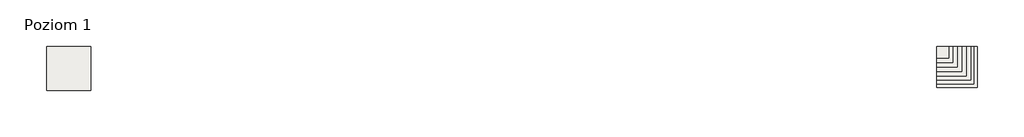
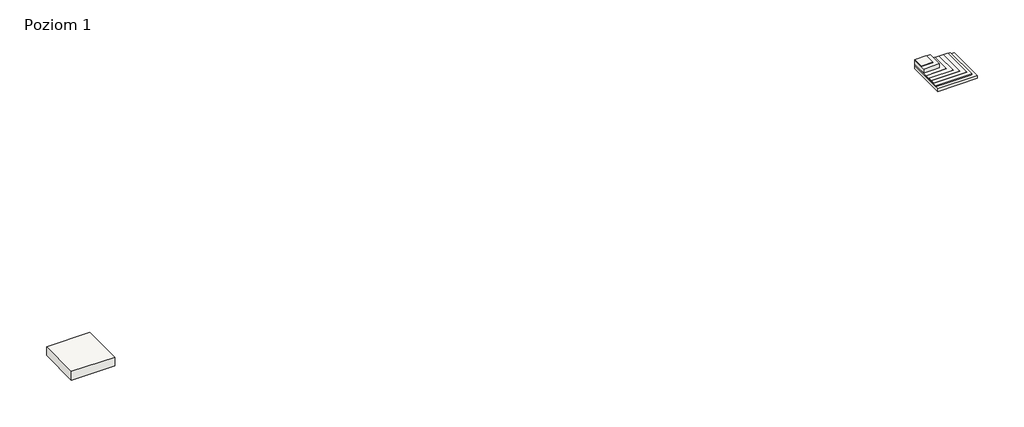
# One storey: 2 roofs.
"""IFC4 building model written with IfcOpenShell, lengths in millimetres."""

from ifc_helpers import new_model, si_unit, frame, origin, origin_with_axes, place, context, project, spatial, polyline, outline, extrude, element, save

model = new_model("IFC4")

# Units and contexts
model_context = context("Model", 3, world=origin())
ifc_project = project(units=[si_unit("LENGTHUNIT", "METRE", prefix="MILLI")], contexts=[model_context])

# Site, building, storey
site = spatial("IfcSite", under=ifc_project)
building = spatial("IfcBuilding", under=site)
storey = spatial("IfcBuildingStorey", under=building, Name="Poziom 1", Elevation=0.0)

# Roofs
placement = place(None, origin())
element("IfcRoof", 1, ObjectType="Dachy zielone w uprawie intensywnej ekonomiczny – Atus CRICKET 20/1000 - układ tradycyjny", at=placement, inside=storey, context=model_context, shape_type="SweptSolid", body=[
    extrude(outline(polyline([(-16494.8444454, -525.5470033), (-13494.8444454, -525.5470033), (-13494.8444454, -3525.5470033), (-16494.8444454, -3525.5470033), (-16494.8444454, -525.5470033)])), origin_with_axes(), (0.0, 0.0, 1.0), 651.0),
])
element("IfcRoof", 2, ObjectType="Dachy zielone w uprawie intensywnej ekonomiczny – Atus CRICKET 20/1000 - układ tradycyjny", at=placement, inside=storey, context=model_context, shape_type="SweptSolid", body=[
    extrude(outline(polyline([(43905.1555546, -525.5470033), (44705.1555546, -525.5470033), (44705.1555546, -1325.5470033), (43905.1555546, -1325.5470033), (43905.1555546, -525.5470033)])), frame((0.0, 0.0, 626.0), z_axis=(0.0, 0.0, 1.0), x_axis=(1.0, 0.0, 0.0)), (0.0, 0.0, 1.0), 25.0),
    extrude(outline(polyline([(43905.1555546, -525.5470033), (45005.1555546, -525.5470033), (45005.1555546, -1625.5470033), (43905.1555546, -1625.5470033), (43905.1555546, -525.5470033)])), frame((0.0, 0.0, 326.0), z_axis=(0.0, 0.0, 1.0), x_axis=(1.0, 0.0, 0.0)), (0.0, 0.0, 1.0), 300.0),
    extrude(outline(polyline([(43905.1555546, -525.5470033), (45305.1555546, -525.5470033), (45305.1555546, -1925.5470033), (43905.1555546, -1925.5470033), (43905.1555546, -525.5470033)])), frame((0.0, 0.0, 325.0), z_axis=(0.0, 0.0, 1.0), x_axis=(1.0, 0.0, 0.0)), (0.0, 0.0, 1.0), 1.0),
    extrude(outline(polyline([(43905.1555546, -525.5470033), (45605.1555546, -525.5470033), (45605.1555546, -2225.5470033), (43905.1555546, -2225.5470033), (43905.1555546, -525.5470033)])), frame((0.0, 0.0, 305.0), z_axis=(0.0, 0.0, 1.0), x_axis=(1.0, 0.0, 0.0)), (0.0, 0.0, 1.0), 20.0),
    extrude(outline(polyline([(43905.1555546, -525.5470033), (45905.1555546, -525.5470033), (45905.1555546, -2525.5470033), (43905.1555546, -2525.5470033), (43905.1555546, -525.5470033)])), frame((0.0, 0.0, 302.0), z_axis=(0.0, 0.0, 1.0), x_axis=(1.0, 0.0, 0.0)), (0.0, 0.0, 1.0), 3.0),
    extrude(outline(polyline([(43905.1555546, -525.5470033), (46205.1555546, -525.5470033), (46205.1555546, -2825.5470033), (43905.1555546, -2825.5470033), (43905.1555546, -525.5470033)])), frame((0.0, 0.0, 300.0), z_axis=(0.0, 0.0, 1.0), x_axis=(1.0, 0.0, 0.0)), (0.0, 0.0, 1.0), 2.0),
    extrude(outline(polyline([(43905.1555546, -525.5470033), (46405.1555546, -525.5470033), (46405.1555546, -3090.4398026), (43905.1555546, -3090.4398026), (43905.1555546, -525.5470033)])), frame((0.0, 0.0, 200.0), z_axis=(0.0, 0.0, 1.0), x_axis=(1.0, 0.0, 0.0)), (0.0, 0.0, 1.0), 100.0),
    extrude(outline(polyline([(43905.1555546, -525.5470033), (46665.1555546, -525.5470033), (46665.1555546, -3325.5470033), (43905.1555546, -3325.5470033), (43905.1555546, -525.5470033)])), origin_with_axes(), (0.0, 0.0, 1.0), 200.0),
])

save(model, "model.ifc")
